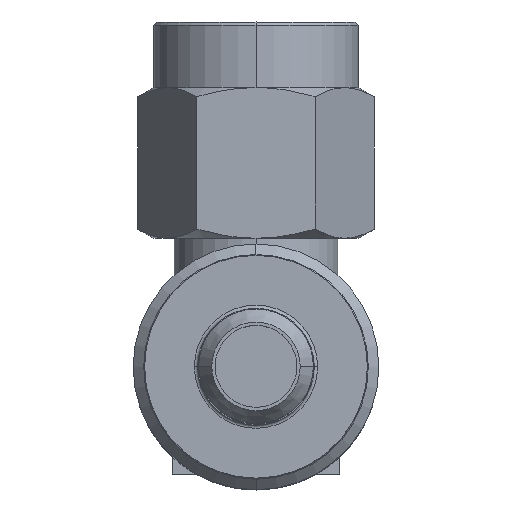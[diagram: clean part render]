
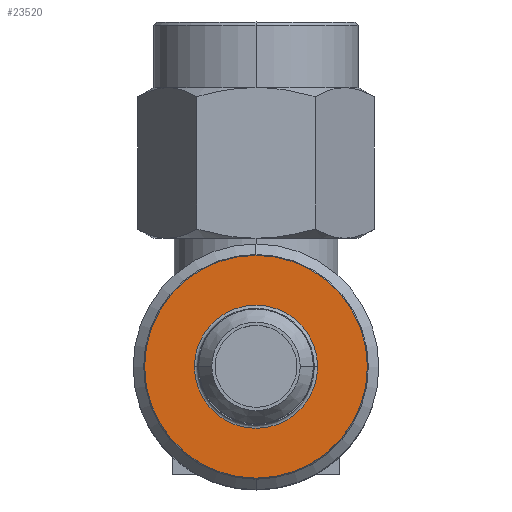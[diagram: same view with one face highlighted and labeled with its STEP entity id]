
A CAD part, top view. The second image highlights one B-rep face of the part: STEP entity #23520.
In plain terms, the highlighted planar face has unit normal (0, 0, 1).
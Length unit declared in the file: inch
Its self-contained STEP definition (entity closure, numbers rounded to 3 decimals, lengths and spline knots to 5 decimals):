
#7699=CARTESIAN_POINT('',(0.,0.163,0.657));
#7700=DIRECTION('',(0.,0.,1.));
#7701=DIRECTION('',(0.,1.,0.));
#7702=AXIS2_PLACEMENT_3D('',#7699,#7700,#7701);
#7704=CARTESIAN_POINT('',(0.,0.163,0.657));
#7705=DIRECTION('',(0.,0.,1.));
#7706=DIRECTION('',(0.,-1.,0.));
#7707=AXIS2_PLACEMENT_3D('',#7704,#7705,#7706);
#7709=CARTESIAN_POINT('',(0.,0.163,0.657));
#7710=DIRECTION('',(0.,0.,-1.));
#7711=DIRECTION('',(1.,0.001,0.));
#7712=AXIS2_PLACEMENT_3D('',#7709,#7710,#7711);
#7714=CARTESIAN_POINT('',(0.,0.163,0.657));
#7715=DIRECTION('',(0.,0.,-1.));
#7716=DIRECTION('',(-1.,-0.001,0.));
#7717=AXIS2_PLACEMENT_3D('',#7714,#7715,#7716);
#8022=CARTESIAN_POINT('',(0.,0.333,0.657));
#8023=CARTESIAN_POINT('',(0.,-0.007,0.657));
#8024=VERTEX_POINT('',#8022);
#8025=VERTEX_POINT('',#8023);
#9044=CARTESIAN_POINT('',(0.094,0.16308,0.657));
#9045=CARTESIAN_POINT('',(-0.094,0.16292,0.657));
#9046=VERTEX_POINT('',#9044);
#9047=VERTEX_POINT('',#9045);
#23505=CARTESIAN_POINT('',(0.,0.163,0.657));
#23506=DIRECTION('',(0.,0.,1.));
#23507=DIRECTION('',(-1.,0.,0.));
#23508=AXIS2_PLACEMENT_3D('',#23505,#23506,#23507);
#23509=PLANE('',#23508);
#23510=ORIENTED_EDGE('',*,*,#10826,.F.);
#23511=ORIENTED_EDGE('',*,*,#10841,.F.);
#23512=EDGE_LOOP('',(#23510,#23511));
#23513=FACE_OUTER_BOUND('',#23512,.F.);
#23515=ORIENTED_EDGE('',*,*,#23514,.F.);
#23517=ORIENTED_EDGE('',*,*,#23516,.F.);
#23518=EDGE_LOOP('',(#23515,#23517));
#23519=FACE_BOUND('',#23518,.F.);
#23520=ADVANCED_FACE('',(#23513,#23519),#23509,.T.);
#7703=CIRCLE('',#7702,0.17);
#7708=CIRCLE('',#7707,0.17);
#7713=CIRCLE('',#7712,0.094);
#7718=CIRCLE('',#7717,0.094);
#10826=EDGE_CURVE('',#8024,#8025,#7703,.T.);
#10841=EDGE_CURVE('',#8025,#8024,#7708,.T.);
#23514=EDGE_CURVE('',#9046,#9047,#7713,.T.);
#23516=EDGE_CURVE('',#9047,#9046,#7718,.T.);
